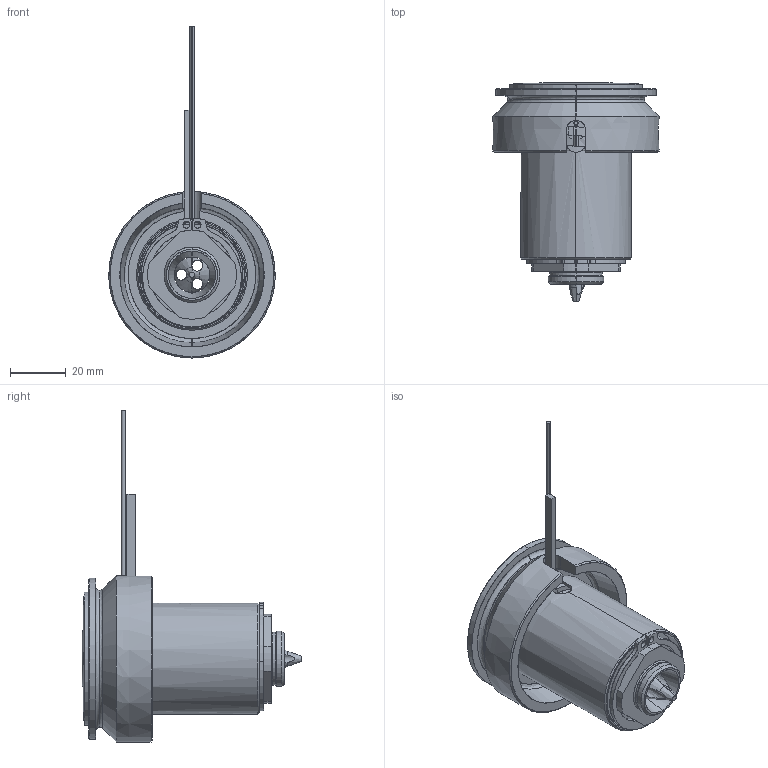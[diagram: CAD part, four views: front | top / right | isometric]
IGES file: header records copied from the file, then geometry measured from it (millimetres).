
Start section: SolidWorks IGES file using analytic representation for surfaces
Global section: file name: C:\Documents and Settings\ws-20\Desktop\TEM\UGEP6002-M-A-0 [Øf-1.9 ØC-15].IGS; native system: SolidWorks 2012; preprocessor: SolidWorks 2012; author: ws-20; date: 120427.092410; units: millimetre
Bounding box: 60 x 79.05 x 119.65 mm (x, y, z)
Surface area: 41511.7 mm2 (no closed solid volume)
Topology: 0 solids, 0 shells, 134 faces, 2599 edges, 2599 vertices
Faces by surface type: revolution 83, bspline 51
